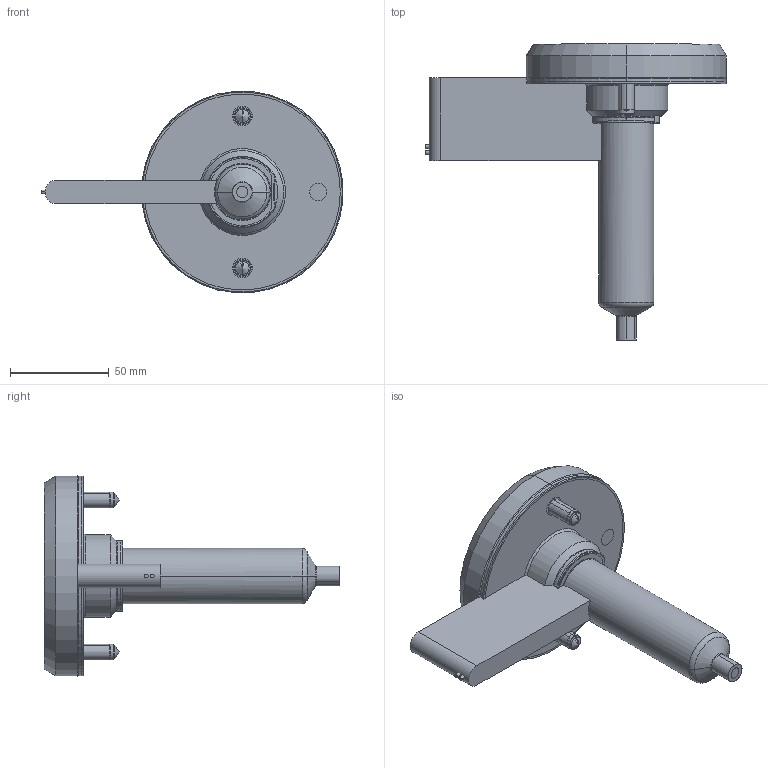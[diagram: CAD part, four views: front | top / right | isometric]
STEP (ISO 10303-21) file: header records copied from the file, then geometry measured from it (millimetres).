
FILE_DESCRIPTION (( 'STEP AP214' ), '1' );
FILE_NAME ('SOHSB6100-SOSRT0602.STEP', '2024-11-29T06:30:12', ( '' ), ( '' ), 'SwSTEP 2.0', 'SolidWorks 2022', '' );
FILE_SCHEMA (( 'AUTOMOTIVE_DESIGN' ));
Length unit declared in the file: millimetre
Products named in the file (9): EcoONE-HSB06-Open Gate Extended Sprue Tip_SOSRT0602; hexagon socket head cap screws gb_GB_FASTENER_SCREWS_HSHCS M8X25-C; EcoONE-HSB06-06006(A)_SONHC06; EcoONE-HSB06-06004_SONH18095; EcoONE-HSB06-00002(A)_SOHSBLR06; EcoONE-HSB06-06005_SOTC10200-J; SOHSB6100-SOSRT0602; EcoONE-HSB06-Open Gate Cut-out Details_Ext Sprue Gate or Full Body Gate; EcoONE-HSB06-06003(A)_SOHSBNB6100
Assembly tree (10 placements, depth 2):
  SOHSB6100-SOSRT0602
    EcoONE-HSB06-06003(A)_SOHSBNB6100
    EcoONE-HSB06-06004_SONH18095
    EcoONE-HSB06-06005_SOTC10200-J
    EcoONE-HSB06-06006(A)_SONHC06  x2
    EcoONE-HSB06-00002(A)_SOHSBLR06
    hexagon socket head cap screws gb_GB_FASTENER_SCREWS_HSHCS M8X25-C  x2
    EcoONE-HSB06-Open Gate Extended Sprue Tip_SOSRT0602
    EcoONE-HSB06-Open Gate Cut-out Details_Ext Sprue Gate or Full Body Gate
Bounding box: 153.01 x 150 x 102.14 mm (x, y, z)
Volume: 327452.3 mm3; surface area: 94415.8 mm2
Topology: 10 solids, 10 shells, 481 faces, 1218 edges, 768 vertices
Faces by surface type: cylinder 150, plane 130, bspline 96, cone 75, torus 22, sphere 8
Entity records: 27984 total; most frequent: CARTESIAN_POINT 17278, ORIENTED_EDGE 2216, DIRECTION 1849, EDGE_CURVE 1108, AXIS2_PLACEMENT_3D 746, VERTEX_POINT 705, EDGE_LOOP 479, FACE_OUTER_BOUND 440
